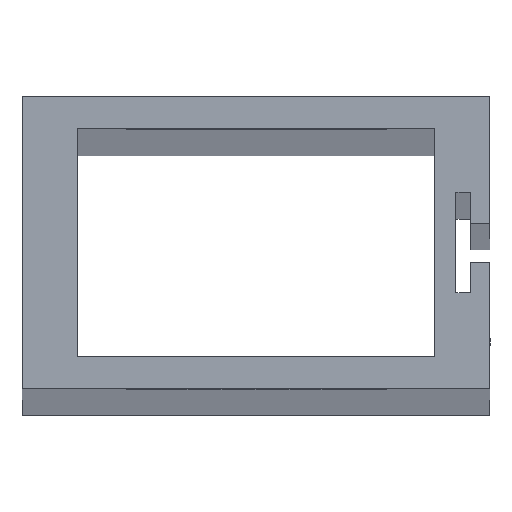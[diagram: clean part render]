
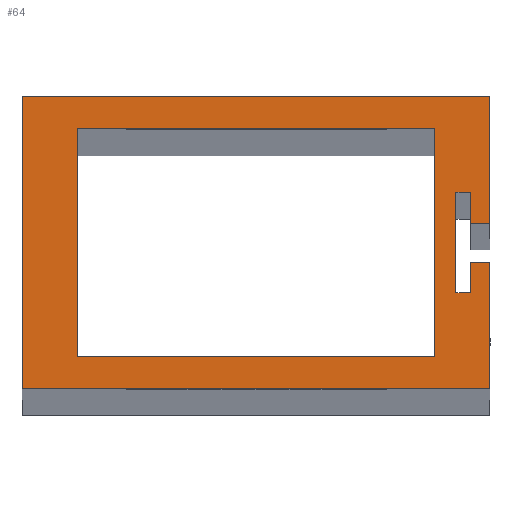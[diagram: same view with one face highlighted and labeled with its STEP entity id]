
A CAD part, top view. The second image highlights one B-rep face of the part: STEP entity #64.
In plain terms, the highlighted planar face has unit normal (0, 0, 1).
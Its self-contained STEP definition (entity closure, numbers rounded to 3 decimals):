
#34=FACE_BOUND('',#161,.T.);
#64=ADVANCED_FACE('',(#102,#34),#752,.T.);
#102=FACE_OUTER_BOUND('',#160,.T.);
#160=EDGE_LOOP('',(#324,#325,#326,#327,#328,#329,#330,#331,#332,#333,#334,
#335));
#161=EDGE_LOOP('',(#336,#337,#338,#339));
#324=ORIENTED_EDGE('',*,*,#472,.F.);
#325=ORIENTED_EDGE('',*,*,#418,.F.);
#326=ORIENTED_EDGE('',*,*,#433,.F.);
#327=ORIENTED_EDGE('',*,*,#397,.F.);
#328=ORIENTED_EDGE('',*,*,#435,.F.);
#329=ORIENTED_EDGE('',*,*,#413,.F.);
#330=ORIENTED_EDGE('',*,*,#427,.F.);
#331=ORIENTED_EDGE('',*,*,#403,.F.);
#332=ORIENTED_EDGE('',*,*,#426,.F.);
#333=ORIENTED_EDGE('',*,*,#431,.F.);
#334=ORIENTED_EDGE('',*,*,#476,.F.);
#335=ORIENTED_EDGE('',*,*,#473,.F.);
#336=ORIENTED_EDGE('',*,*,#391,.F.);
#337=ORIENTED_EDGE('',*,*,#437,.F.);
#338=ORIENTED_EDGE('',*,*,#393,.F.);
#339=ORIENTED_EDGE('',*,*,#468,.F.);
#391=EDGE_CURVE('',#647,#644,#599,.T.);
#393=EDGE_CURVE('',#649,#650,#601,.T.);
#397=EDGE_CURVE('',#669,#670,#605,.T.);
#403=EDGE_CURVE('',#675,#672,#611,.T.);
#413=EDGE_CURVE('',#685,#686,#613,.T.);
#418=EDGE_CURVE('',#690,#691,#618,.T.);
#426=EDGE_CURVE('',#701,#675,#622,.T.);
#427=EDGE_CURVE('',#672,#685,#623,.T.);
#431=EDGE_CURVE('',#703,#701,#627,.T.);
#433=EDGE_CURVE('',#670,#690,#629,.T.);
#435=EDGE_CURVE('',#686,#669,#631,.T.);
#437=EDGE_CURVE('',#650,#647,#633,.T.);
#468=EDGE_CURVE('',#644,#649,#634,.T.);
#472=EDGE_CURVE('',#691,#712,#638,.T.);
#473=EDGE_CURVE('',#712,#714,#639,.T.);
#476=EDGE_CURVE('',#714,#703,#642,.T.);
#599=B_SPLINE_CURVE_WITH_KNOTS('',1,(#1160,#1161),.UNSPECIFIED.,.F.,.F.,
(2,2),(0.,14.),.UNSPECIFIED.);
#601=B_SPLINE_CURVE_WITH_KNOTS('',1,(#1164,#1165),.UNSPECIFIED.,.F.,.F.,
(2,2),(0.,14.),.UNSPECIFIED.);
#605=B_SPLINE_CURVE_WITH_KNOTS('',1,(#1172,#1173),.UNSPECIFIED.,.F.,.F.,
(2,2),(0.,1.9),.UNSPECIFIED.);
#611=B_SPLINE_CURVE_WITH_KNOTS('',1,(#1184,#1185),.UNSPECIFIED.,.F.,.F.,
(2,2),(0.,1.9),.UNSPECIFIED.);
#613=B_SPLINE_CURVE_WITH_KNOTS('',1,(#1208,#1209),.UNSPECIFIED.,.F.,.F.,
(2,2),(0.,6.2),.UNSPECIFIED.);
#618=B_SPLINE_CURVE_WITH_KNOTS('',1,(#1218,#1219),.UNSPECIFIED.,.F.,.F.,
(2,2),(0.,7.8),.UNSPECIFIED.);
#622=B_SPLINE_CURVE_WITH_KNOTS('',1,(#1239,#1240,#1241),.UNSPECIFIED.,.F.,
 .F.,(2,1,2),(0.,1.,1.2),.UNSPECIFIED.);
#623=B_SPLINE_CURVE_WITH_KNOTS('',1,(#1242,#1243),.UNSPECIFIED.,.F.,.F.,
(2,2),(0.,0.9),.UNSPECIFIED.);
#627=B_SPLINE_CURVE_WITH_KNOTS('',1,(#1250,#1251),.UNSPECIFIED.,.F.,.F.,
(2,2),(0.,7.8),.UNSPECIFIED.);
#629=B_SPLINE_CURVE_WITH_KNOTS('',1,(#1255,#1256,#1257),.UNSPECIFIED.,.F.,
 .F.,(2,1,2),(0.,0.2,1.2),.UNSPECIFIED.);
#631=B_SPLINE_CURVE_WITH_KNOTS('',1,(#1260,#1261),.UNSPECIFIED.,.F.,.F.,
(2,2),(0.,0.9),.UNSPECIFIED.);
#633=B_SPLINE_CURVE_WITH_KNOTS('',1,(#1264,#1265),.UNSPECIFIED.,.F.,.F.,
(2,2),(0.,22.029),.UNSPECIFIED.);
#634=B_SPLINE_CURVE_WITH_KNOTS('',1,(#1349,#1350),.UNSPECIFIED.,.F.,.F.,
(2,2),(0.,22.029),.UNSPECIFIED.);
#638=B_SPLINE_CURVE_WITH_KNOTS('',1,(#1357,#1358),.UNSPECIFIED.,.F.,.F.,
(2,2),(0.,28.829),.UNSPECIFIED.);
#639=B_SPLINE_CURVE_WITH_KNOTS('',1,(#1359,#1360),.UNSPECIFIED.,.F.,.F.,
(2,2),(0.,18.),.UNSPECIFIED.);
#642=B_SPLINE_CURVE_WITH_KNOTS('',1,(#1365,#1366),.UNSPECIFIED.,.F.,.F.,
(2,2),(0.,28.829),.UNSPECIFIED.);
#644=VERTEX_POINT('',#1082);
#647=VERTEX_POINT('',#1085);
#649=VERTEX_POINT('',#1087);
#650=VERTEX_POINT('',#1088);
#669=VERTEX_POINT('',#1107);
#670=VERTEX_POINT('',#1108);
#672=VERTEX_POINT('',#1110);
#675=VERTEX_POINT('',#1113);
#685=VERTEX_POINT('',#1123);
#686=VERTEX_POINT('',#1124);
#690=VERTEX_POINT('',#1128);
#691=VERTEX_POINT('',#1129);
#701=VERTEX_POINT('',#1139);
#703=VERTEX_POINT('',#1141);
#712=VERTEX_POINT('',#1150);
#714=VERTEX_POINT('',#1152);
#752=PLANE('',#870);
#870=AXIS2_PLACEMENT_3D('',#1072,#951,$);
#951=DIRECTION('',(0.,0.,1.));
#1072=CARTESIAN_POINT('',(-17.31,-10.812,474.975));
#1082=CARTESIAN_POINT('',(-11.015,-7.,474.975));
#1085=CARTESIAN_POINT('',(-11.015,7.,474.975));
#1087=CARTESIAN_POINT('',(11.015,-7.,474.975));
#1088=CARTESIAN_POINT('',(11.015,7.,474.975));
#1107=CARTESIAN_POINT('',(13.215,-3.1,474.975));
#1108=CARTESIAN_POINT('',(13.215,-1.2,474.975));
#1110=CARTESIAN_POINT('',(13.215,3.1,474.975));
#1113=CARTESIAN_POINT('',(13.215,1.2,474.975));
#1123=CARTESIAN_POINT('',(12.315,3.1,474.975));
#1124=CARTESIAN_POINT('',(12.315,-3.1,474.975));
#1128=CARTESIAN_POINT('',(14.415,-1.2,474.975));
#1129=CARTESIAN_POINT('',(14.415,-9.,474.975));
#1139=CARTESIAN_POINT('',(14.415,1.2,474.975));
#1141=CARTESIAN_POINT('',(14.415,9.,474.975));
#1150=CARTESIAN_POINT('',(-14.415,-9.,474.975));
#1152=CARTESIAN_POINT('',(-14.415,9.,474.975));
#1160=CARTESIAN_POINT('',(-11.015,7.,474.975));
#1161=CARTESIAN_POINT('',(-11.015,-7.,474.975));
#1164=CARTESIAN_POINT('',(11.015,-7.,474.975));
#1165=CARTESIAN_POINT('',(11.015,7.,474.975));
#1172=CARTESIAN_POINT('',(13.215,-3.1,474.975));
#1173=CARTESIAN_POINT('',(13.215,-1.2,474.975));
#1184=CARTESIAN_POINT('',(13.215,1.2,474.975));
#1185=CARTESIAN_POINT('',(13.215,3.1,474.975));
#1208=CARTESIAN_POINT('',(12.315,3.1,474.975));
#1209=CARTESIAN_POINT('',(12.315,-3.1,474.975));
#1218=CARTESIAN_POINT('',(14.415,-1.2,474.975));
#1219=CARTESIAN_POINT('',(14.415,-9.,474.975));
#1239=CARTESIAN_POINT('',(14.415,1.2,474.975));
#1240=CARTESIAN_POINT('',(13.415,1.2,474.975));
#1241=CARTESIAN_POINT('',(13.215,1.2,474.975));
#1242=CARTESIAN_POINT('',(13.215,3.1,474.975));
#1243=CARTESIAN_POINT('',(12.315,3.1,474.975));
#1250=CARTESIAN_POINT('',(14.415,9.,474.975));
#1251=CARTESIAN_POINT('',(14.415,1.2,474.975));
#1255=CARTESIAN_POINT('',(13.215,-1.2,474.975));
#1256=CARTESIAN_POINT('',(13.415,-1.2,474.975));
#1257=CARTESIAN_POINT('',(14.415,-1.2,474.975));
#1260=CARTESIAN_POINT('',(12.315,-3.1,474.975));
#1261=CARTESIAN_POINT('',(13.215,-3.1,474.975));
#1264=CARTESIAN_POINT('',(11.015,7.,474.975));
#1265=CARTESIAN_POINT('',(-11.015,7.,474.975));
#1349=CARTESIAN_POINT('',(-11.015,-7.,474.975));
#1350=CARTESIAN_POINT('',(11.015,-7.,474.975));
#1357=CARTESIAN_POINT('',(14.415,-9.,474.975));
#1358=CARTESIAN_POINT('',(-14.415,-9.,474.975));
#1359=CARTESIAN_POINT('',(-14.415,-9.,474.975));
#1360=CARTESIAN_POINT('',(-14.415,9.,474.975));
#1365=CARTESIAN_POINT('',(-14.415,9.,474.975));
#1366=CARTESIAN_POINT('',(14.415,9.,474.975));
